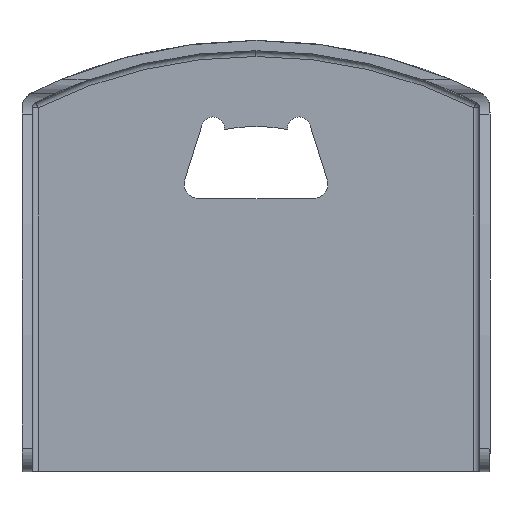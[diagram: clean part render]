
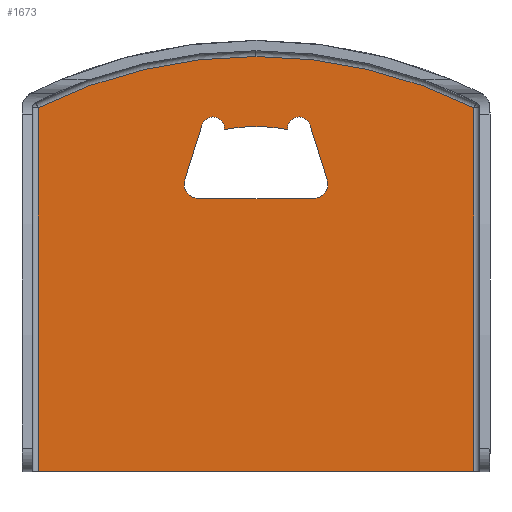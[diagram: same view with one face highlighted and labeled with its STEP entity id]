
A CAD part, front view. The second image highlights one B-rep face of the part: STEP entity #1673.
In plain terms, the highlighted planar face has unit normal (0, -1, 0).
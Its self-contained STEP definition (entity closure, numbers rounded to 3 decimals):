
#18 = DIRECTION ( 'NONE',  ( 0., 1., 0. ) ) ;
#25 = LINE ( 'NONE', #551, #1512 ) ;
#28 = EDGE_CURVE ( 'NONE', #376, #1335, #377, .T. ) ;
#42 = DIRECTION ( 'NONE',  ( 0., 1., 0. ) ) ;
#64 = EDGE_CURVE ( 'NONE', #679, #596, #773, .T. ) ;
#75 = DIRECTION ( 'NONE',  ( 0., 0., 1. ) ) ;
#86 = ORIENTED_EDGE ( 'NONE', *, *, #64, .T. ) ;
#114 = AXIS2_PLACEMENT_3D ( 'NONE', #1295, #1257, #75 ) ;
#122 = ORIENTED_EDGE ( 'NONE', *, *, #1044, .T. ) ;
#133 = VERTEX_POINT ( 'NONE', #278 ) ;
#141 = LINE ( 'NONE', #411, #423 ) ;
#145 = CIRCLE ( 'NONE', #114, 85.025 ) ;
#249 = ORIENTED_EDGE ( 'NONE', *, *, #1016, .T. ) ;
#261 = CARTESIAN_POINT ( 'NONE',  ( 7.5, -1.8, 61.682 ) ) ;
#265 = EDGE_CURVE ( 'NONE', #1448, #376, #475, .T. ) ;
#278 = CARTESIAN_POINT ( 'NONE',  ( -9.409, -1.8, 60.279 ) ) ;
#293 = CARTESIAN_POINT ( 'NONE',  ( 7.5, -1.8, 59.682 ) ) ;
#295 = DIRECTION ( 'NONE',  ( 0., 0., 1. ) ) ;
#302 = EDGE_CURVE ( 'NONE', #1467, #1268, #1537, .T. ) ;
#330 = DIRECTION ( 'NONE',  ( 0., 1., 0. ) ) ;
#335 = EDGE_CURVE ( 'NONE', #1111, #1448, #141, .T. ) ;
#342 = CARTESIAN_POINT ( 'NONE',  ( 9.409, -1.8, 60.279 ) ) ;
#355 = DIRECTION ( 'NONE',  ( 0., 1., 0. ) ) ;
#376 = VERTEX_POINT ( 'NONE', #1379 ) ;
#377 = LINE ( 'NONE', #755, #536 ) ;
#379 = CARTESIAN_POINT ( 'NONE',  ( 0., -1.8, -12.825 ) ) ;
#389 = EDGE_CURVE ( 'NONE', #1185, #133, #1524, .T. ) ;
#394 = PLANE ( 'NONE',  #772 ) ;
#411 = CARTESIAN_POINT ( 'NONE',  ( 9.409, -1.8, 60.279 ) ) ;
#423 = VECTOR ( 'NONE', #1330, 1000. ) ;
#439 = CARTESIAN_POINT ( 'NONE',  ( -9.409, -1.8, 60.279 ) ) ;
#446 = VERTEX_POINT ( 'NONE', #875 ) ;
#465 = EDGE_CURVE ( 'NONE', #1268, #1111, #1231, .T. ) ;
#475 = CIRCLE ( 'NONE', #554, 2.5 ) ;
#477 = CIRCLE ( 'NONE', #984, 2.5 ) ;
#484 = DIRECTION ( 'NONE',  ( 0., 1., 0. ) ) ;
#491 = DIRECTION ( 'NONE',  ( 0., 0., 1. ) ) ;
#511 = DIRECTION ( 'NONE',  ( 0., 1., 0. ) ) ;
#516 = EDGE_LOOP ( 'NONE', ( #122, #249, #847, #994, #1190, #1535, #711, #1631, #830, #732, #1277 ) ) ;
#518 = EDGE_CURVE ( 'NONE', #1335, #1185, #477, .T. ) ;
#526 = LINE ( 'NONE', #1075, #1446 ) ;
#536 = VECTOR ( 'NONE', #1017, 1000. ) ;
#551 = CARTESIAN_POINT ( 'NONE',  ( 38.9, -1.8, 0. ) ) ;
#554 = AXIS2_PLACEMENT_3D ( 'NONE', #1709, #511, #1288 ) ;
#589 = CIRCLE ( 'NONE', #1188, 2. ) ;
#596 = VERTEX_POINT ( 'NONE', #604 ) ;
#598 = EDGE_LOOP ( 'NONE', ( #1248, #1254, #86, #950, #690 ) ) ;
#603 = CARTESIAN_POINT ( 'NONE',  ( 0., -1.8, 30. ) ) ;
#604 = CARTESIAN_POINT ( 'NONE',  ( -37.9, -1.8, 0. ) ) ;
#612 = DIRECTION ( 'NONE',  ( 0., 0., 1. ) ) ;
#663 = DIRECTION ( 'NONE',  ( 0., 0., 1. ) ) ;
#666 = DIRECTION ( 'NONE',  ( 0., 0., -1. ) ) ;
#679 = VERTEX_POINT ( 'NONE', #1023 ) ;
#690 = ORIENTED_EDGE ( 'NONE', *, *, #1718, .T. ) ;
#697 = AXIS2_PLACEMENT_3D ( 'NONE', #603, #484, #999 ) ;
#711 = ORIENTED_EDGE ( 'NONE', *, *, #28, .T. ) ;
#732 = ORIENTED_EDGE ( 'NONE', *, *, #879, .T. ) ;
#755 = CARTESIAN_POINT ( 'NONE',  ( -10., -1.8, 47.5 ) ) ;
#772 = AXIS2_PLACEMENT_3D ( 'NONE', #775, #1189, #1461 ) ;
#773 = LINE ( 'NONE', #1283, #1600 ) ;
#775 = CARTESIAN_POINT ( 'NONE',  ( 0., -1.8, -12.825 ) ) ;
#781 = VERTEX_POINT ( 'NONE', #1591 ) ;
#815 = CARTESIAN_POINT ( 'NONE',  ( 12.386, -1.8, 50.745 ) ) ;
#830 = ORIENTED_EDGE ( 'NONE', *, *, #389, .T. ) ;
#847 = ORIENTED_EDGE ( 'NONE', *, *, #302, .T. ) ;
#862 = CARTESIAN_POINT ( 'NONE',  ( 5.509, -1.8, 59.49 ) ) ;
#871 = AXIS2_PLACEMENT_3D ( 'NONE', #1038, #1662, #612 ) ;
#875 = CARTESIAN_POINT ( 'NONE',  ( 0., -1.8, 72.2 ) ) ;
#878 = CARTESIAN_POINT ( 'NONE',  ( -7.5, -1.8, 59.682 ) ) ;
#879 = EDGE_CURVE ( 'NONE', #133, #1118, #589, .T. ) ;
#915 = DIRECTION ( 'NONE',  ( 0., -1., 0. ) ) ;
#950 = ORIENTED_EDGE ( 'NONE', *, *, #1002, .F. ) ;
#956 = DIRECTION ( 'NONE',  ( -1., 0., 0. ) ) ;
#984 = AXIS2_PLACEMENT_3D ( 'NONE', #1072, #355, #1422 ) ;
#985 = CIRCLE ( 'NONE', #697, 30. ) ;
#994 = ORIENTED_EDGE ( 'NONE', *, *, #465, .T. ) ;
#999 = DIRECTION ( 'NONE',  ( 0., 0., 1. ) ) ;
#1002 = EDGE_CURVE ( 'NONE', #1239, #596, #25, .T. ) ;
#1013 = CIRCLE ( 'NONE', #1687, 85.025 ) ;
#1016 = EDGE_CURVE ( 'NONE', #781, #1467, #1097, .T. ) ;
#1017 = DIRECTION ( 'NONE',  ( -1., 0., 0. ) ) ;
#1023 = CARTESIAN_POINT ( 'NONE',  ( -37.9, -1.8, 63.286 ) ) ;
#1026 = DIRECTION ( 'NONE',  ( 0., 1., 0. ) ) ;
#1038 = CARTESIAN_POINT ( 'NONE',  ( 0., -1.8, 30. ) ) ;
#1040 = AXIS2_PLACEMENT_3D ( 'NONE', #293, #18, #666 ) ;
#1044 = EDGE_CURVE ( 'NONE', #1301, #781, #985, .T. ) ;
#1068 = CARTESIAN_POINT ( 'NONE',  ( -5.509, -1.8, 59.49 ) ) ;
#1072 = CARTESIAN_POINT ( 'NONE',  ( -10., -1.8, 50. ) ) ;
#1075 = CARTESIAN_POINT ( 'NONE',  ( 37.9, -1.8, 63.902 ) ) ;
#1084 = CARTESIAN_POINT ( 'NONE',  ( -12.386, -1.8, 50.745 ) ) ;
#1097 = CIRCLE ( 'NONE', #871, 30. ) ;
#1111 = VERTEX_POINT ( 'NONE', #342 ) ;
#1117 = EDGE_CURVE ( 'NONE', #1118, #1301, #1210, .T. ) ;
#1118 = VERTEX_POINT ( 'NONE', #1298 ) ;
#1153 = VECTOR ( 'NONE', #1369, 1000. ) ;
#1166 = DIRECTION ( 'NONE',  ( 0., 0., -1. ) ) ;
#1174 = EDGE_CURVE ( 'NONE', #1388, #446, #1013, .T. ) ;
#1179 = CARTESIAN_POINT ( 'NONE',  ( 7.5, -1.8, 59.682 ) ) ;
#1185 = VERTEX_POINT ( 'NONE', #1084 ) ;
#1188 = AXIS2_PLACEMENT_3D ( 'NONE', #1359, #42, #295 ) ;
#1189 = DIRECTION ( 'NONE',  ( 0., 1., 0. ) ) ;
#1190 = ORIENTED_EDGE ( 'NONE', *, *, #335, .T. ) ;
#1199 = CARTESIAN_POINT ( 'NONE',  ( 37.9, -1.8, 0. ) ) ;
#1210 = CIRCLE ( 'NONE', #1484, 2. ) ;
#1231 = CIRCLE ( 'NONE', #1509, 2. ) ;
#1239 = VERTEX_POINT ( 'NONE', #1199 ) ;
#1248 = ORIENTED_EDGE ( 'NONE', *, *, #1174, .T. ) ;
#1254 = ORIENTED_EDGE ( 'NONE', *, *, #1491, .T. ) ;
#1257 = DIRECTION ( 'NONE',  ( 0., -1., 0. ) ) ;
#1268 = VERTEX_POINT ( 'NONE', #261 ) ;
#1277 = ORIENTED_EDGE ( 'NONE', *, *, #1117, .T. ) ;
#1283 = CARTESIAN_POINT ( 'NONE',  ( -37.9, -1.8, 0. ) ) ;
#1288 = DIRECTION ( 'NONE',  ( 0., 0., -1. ) ) ;
#1295 = CARTESIAN_POINT ( 'NONE',  ( 0., -1.8, -12.825 ) ) ;
#1298 = CARTESIAN_POINT ( 'NONE',  ( -7.5, -1.8, 61.682 ) ) ;
#1301 = VERTEX_POINT ( 'NONE', #1068 ) ;
#1321 = FACE_OUTER_BOUND ( 'NONE', #598, .T. ) ;
#1330 = DIRECTION ( 'NONE',  ( 0.298, 0., -0.955 ) ) ;
#1335 = VERTEX_POINT ( 'NONE', #1617 ) ;
#1359 = CARTESIAN_POINT ( 'NONE',  ( -7.5, -1.8, 59.682 ) ) ;
#1369 = DIRECTION ( 'NONE',  ( 0.298, 0., 0.955 ) ) ;
#1379 = CARTESIAN_POINT ( 'NONE',  ( 10., -1.8, 47.5 ) ) ;
#1388 = VERTEX_POINT ( 'NONE', #1641 ) ;
#1422 = DIRECTION ( 'NONE',  ( 0., 0., 1. ) ) ;
#1446 = VECTOR ( 'NONE', #663, 1000. ) ;
#1448 = VERTEX_POINT ( 'NONE', #815 ) ;
#1461 = DIRECTION ( 'NONE',  ( 0., 0., 1. ) ) ;
#1467 = VERTEX_POINT ( 'NONE', #862 ) ;
#1484 = AXIS2_PLACEMENT_3D ( 'NONE', #878, #330, #491 ) ;
#1491 = EDGE_CURVE ( 'NONE', #446, #679, #145, .T. ) ;
#1509 = AXIS2_PLACEMENT_3D ( 'NONE', #1179, #1026, #1559 ) ;
#1512 = VECTOR ( 'NONE', #956, 1000. ) ;
#1524 = LINE ( 'NONE', #439, #1153 ) ;
#1535 = ORIENTED_EDGE ( 'NONE', *, *, #265, .T. ) ;
#1537 = CIRCLE ( 'NONE', #1040, 2. ) ;
#1559 = DIRECTION ( 'NONE',  ( 0., 0., -1. ) ) ;
#1588 = DIRECTION ( 'NONE',  ( 0., 0., 1. ) ) ;
#1591 = CARTESIAN_POINT ( 'NONE',  ( 0., -1.8, 60. ) ) ;
#1596 = FACE_BOUND ( 'NONE', #516, .T. ) ;
#1600 = VECTOR ( 'NONE', #1166, 1000. ) ;
#1617 = CARTESIAN_POINT ( 'NONE',  ( -10., -1.8, 47.5 ) ) ;
#1631 = ORIENTED_EDGE ( 'NONE', *, *, #518, .T. ) ;
#1641 = CARTESIAN_POINT ( 'NONE',  ( 37.9, -1.8, 63.286 ) ) ;
#1662 = DIRECTION ( 'NONE',  ( 0., 1., 0. ) ) ;
#1673 = ADVANCED_FACE ( 'NONE', ( #1596, #1321 ), #394, .F. ) ;
#1687 = AXIS2_PLACEMENT_3D ( 'NONE', #379, #915, #1588 ) ;
#1709 = CARTESIAN_POINT ( 'NONE',  ( 10., -1.8, 50. ) ) ;
#1718 = EDGE_CURVE ( 'NONE', #1239, #1388, #526, .T. ) ;
